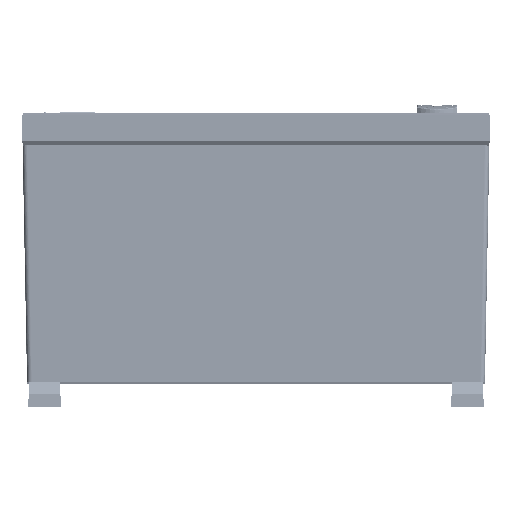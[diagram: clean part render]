
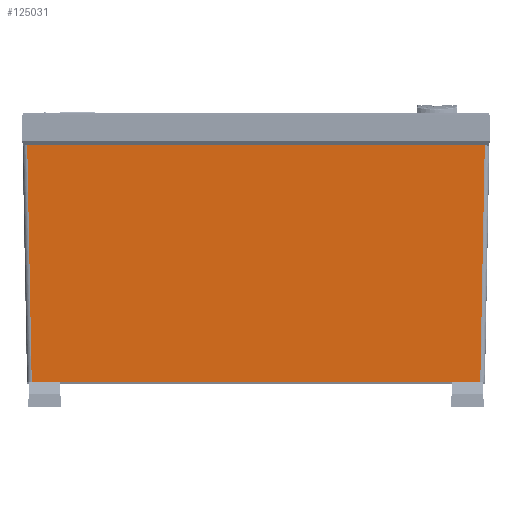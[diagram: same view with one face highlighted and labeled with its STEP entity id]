
A CAD part, top view. The second image highlights one B-rep face of the part: STEP entity #125031.
In plain terms, the highlighted planar face has unit normal (0, -0.019, 1).
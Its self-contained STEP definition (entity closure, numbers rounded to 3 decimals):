
#9930 = VECTOR ( 'NONE', #82244, 1000. ) ;
#18334 = LINE ( 'NONE', #379715, #9930 ) ;
#23300 = VERTEX_POINT ( 'NONE', #247039 ) ;
#62287 = EDGE_LOOP ( 'NONE', ( #161655, #336810, #173357, #94500 ) ) ;
#82244 = DIRECTION ( 'NONE',  ( 1., 0., 0. ) ) ;
#83103 = VECTOR ( 'NONE', #193505, 1000. ) ;
#83963 = LINE ( 'NONE', #218308, #167562 ) ;
#94500 = ORIENTED_EDGE ( 'NONE', *, *, #343955, .F. ) ;
#94789 = EDGE_CURVE ( 'NONE', #103720, #95991, #158307, .T. ) ;
#95991 = VERTEX_POINT ( 'NONE', #310173 ) ;
#103720 = VERTEX_POINT ( 'NONE', #105258 ) ;
#105258 = CARTESIAN_POINT ( 'NONE',  ( -192.001, 0., 284. ) ) ;
#125031 = ADVANCED_FACE ( 'NONE', ( #292288 ), #252732, .F. ) ;
#153964 = CARTESIAN_POINT ( 'NONE',  ( 250., 0., 284. ) ) ;
#158307 = LINE ( 'NONE', #153964, #83103 ) ;
#161655 = ORIENTED_EDGE ( 'NONE', *, *, #374678, .T. ) ;
#167562 = VECTOR ( 'NONE', #185253, 1000. ) ;
#173357 = ORIENTED_EDGE ( 'NONE', *, *, #203354, .T. ) ;
#185253 = DIRECTION ( 'NONE',  ( 0.019, -1., -0.019 ) ) ;
#193505 = DIRECTION ( 'NONE',  ( 1., 0., 0. ) ) ;
#203354 = EDGE_CURVE ( 'NONE', #95991, #23300, #430917, .T. ) ;
#218308 = CARTESIAN_POINT ( 'NONE',  ( -195.833, 202.624, 287.793 ) ) ;
#228716 = AXIS2_PLACEMENT_3D ( 'NONE', #257082, #426711, #420197 ) ;
#228976 = CARTESIAN_POINT ( 'NONE',  ( -195.84, 203., 287.8 ) ) ;
#247039 = CARTESIAN_POINT ( 'NONE',  ( 195.84, 203., 287.8 ) ) ;
#252732 = PLANE ( 'NONE',  #228716 ) ;
#257082 = CARTESIAN_POINT ( 'NONE',  ( 250., 203., 287.8 ) ) ;
#267655 = VERTEX_POINT ( 'NONE', #228976 ) ;
#292288 = FACE_OUTER_BOUND ( 'NONE', #62287, .T. ) ;
#296453 = CARTESIAN_POINT ( 'NONE',  ( 192.075, 3.925, 284.073 ) ) ;
#302990 = DIRECTION ( 'NONE',  ( 0.019, 1., 0.019 ) ) ;
#310173 = CARTESIAN_POINT ( 'NONE',  ( 192.001, 0., 284. ) ) ;
#336810 = ORIENTED_EDGE ( 'NONE', *, *, #94789, .T. ) ;
#343955 = EDGE_CURVE ( 'NONE', #267655, #23300, #18334, .T. ) ;
#344261 = VECTOR ( 'NONE', #302990, 1000. ) ;
#374678 = EDGE_CURVE ( 'NONE', #267655, #103720, #83963, .T. ) ;
#379715 = CARTESIAN_POINT ( 'NONE',  ( 250., 203., 287.8 ) ) ;
#420197 = DIRECTION ( 'NONE',  ( -1., 0., 0. ) ) ;
#426711 = DIRECTION ( 'NONE',  ( 0., 0.019, -1. ) ) ;
#430917 = LINE ( 'NONE', #296453, #344261 ) ;
